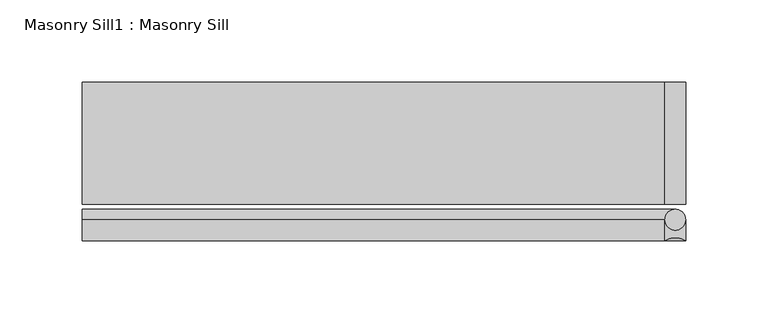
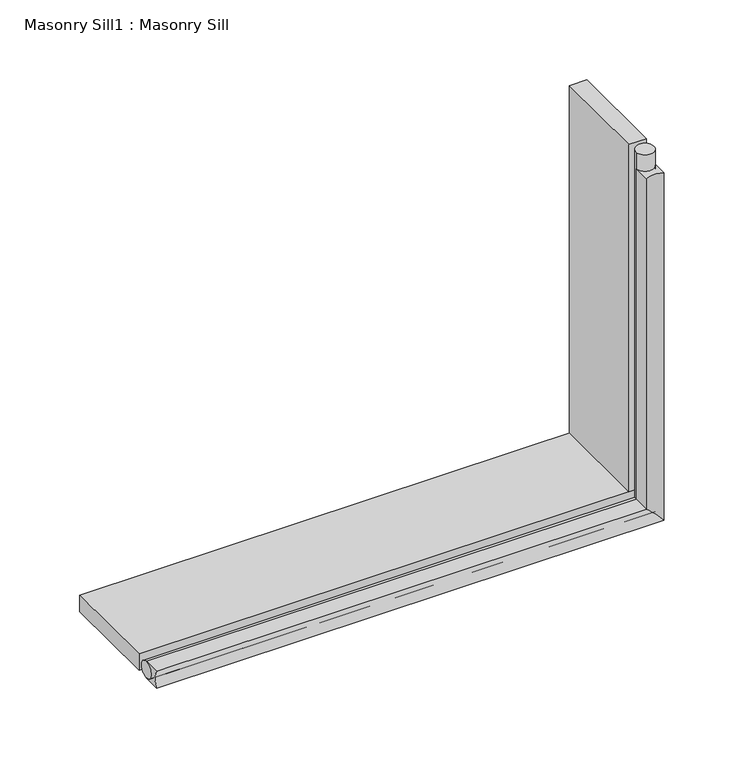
"""IFC4 building model written with IfcOpenShell, lengths in millimetres: proxy geometry, Masonry Sill1 : Masonry Sill."""

import ifcopenshell
import ifcopenshell.guid

model = None  # the IFC model being written
_history = None  # IfcOwnerHistory: only IFC2X3 demands one
_inside = {}  # id of a spatial element -> (the spatial element, [elements in it])
_under = {}  # id of a project, library or spatial element -> (it, [spatial elements below it])
_declared = {}  # id of a project -> (the project, [libraries it declares])
_typed = {}  # id of a type object -> (the type object, [elements of that type])
_made_of = {}  # id of a material, layer set ... -> (it, [elements and type objects made of it])


def new_model(schema):
    """Start an empty IFC model of exactly this schema.

    Asked for "IFC4X3", IfcOpenShell would pick the latest addendum, in which some entities
    have other attributes; the version numbers below select the first issue.
    IFC2X3 requires an IfcOwnerHistory on every rooted entity: one is made here for all.
    """
    global model, _history
    if schema == "IFC4X3":
        model = ifcopenshell.file(schema_version=(4, 3, 0, 0))
    else:
        model = ifcopenshell.file(schema=schema)
    _inside.clear()
    _under.clear()
    _declared.clear()
    _typed.clear()
    _made_of.clear()
    _history = None
    if model.schema == "IFC2X3":
        org = make("IfcOrganization", Name="unknown")
        user = make(
            "IfcPersonAndOrganization",
            ThePerson=make("IfcPerson", FamilyName="unknown"),
            TheOrganization=org,
        )
        app = make(
            "IfcApplication",
            ApplicationDeveloper=org,
            Version="unknown",
            ApplicationFullName="unknown",
            ApplicationIdentifier="unknown",
        )
        _history = make(
            "IfcOwnerHistory",
            OwningUser=user,
            OwningApplication=app,
            ChangeAction="ADDED",
            CreationDate=0,
        )
    return model


def make(cls, **values):
    """One entity of the class cls with the attributes given. An attribute that is None is left unset."""
    return model.create_entity(
        cls, **{name: value for name, value in values.items() if value is not None}
    )


def rooted(cls, **values):
    """An entity with a GlobalId (a new one), such as an element, a storey or a relation."""
    return make(cls, GlobalId=ifcopenshell.guid.new(), OwnerHistory=_history, **values)


def si_unit(unit_type, name, prefix=None):
    """IfcSIUnit, for example si_unit("LENGTHUNIT", "METRE", prefix="MILLI")."""
    return make("IfcSIUnit", UnitType=unit_type, Prefix=prefix, Name=name)


def assignment(units):
    """IfcUnitAssignment: the units of a project."""
    return None if units is None else make("IfcUnitAssignment", Units=units)


def point(xyz):
    """IfcCartesianPoint."""
    return None if xyz is None else make("IfcCartesianPoint", Coordinates=xyz)


def direction(xyz):
    """IfcDirection."""
    return None if xyz is None else make("IfcDirection", DirectionRatios=xyz)


def frame(location, z_axis=None, x_axis=None):
    """IfcAxis2Placement3D, a coordinate frame: its origin and axes. An axis left out is left unset."""
    return make(
        "IfcAxis2Placement3D",
        Location=point(location),
        Axis=direction(z_axis),
        RefDirection=direction(x_axis),
    )


def origin():
    """The frame at (0, 0, 0) with its axes left unset."""
    return frame((0.0, 0.0, 0.0))


def place(relative_to, where):
    """IfcLocalPlacement: puts the frame where relative to a parent placement (None: the world)."""
    return make(
        "IfcLocalPlacement", PlacementRelTo=relative_to, RelativePlacement=where
    )


def context(
    kind, dimensions, precision=None, world=None, true_north=None, identifier=None
):
    """IfcGeometricRepresentationContext, for example the 3D "Model" context."""
    return make(
        "IfcGeometricRepresentationContext",
        ContextIdentifier=identifier,
        ContextType=kind,
        CoordinateSpaceDimension=dimensions,
        Precision=precision,
        WorldCoordinateSystem=world,
        TrueNorth=true_north,
    )


def project(units=None, contexts=None):
    """IfcProject with its units and contexts."""
    return rooted(
        "IfcProject",
        Name="project",
        RepresentationContexts=contexts,
        UnitsInContext=assignment(units),
    )


def spatial(cls, under=None, at=None, **own):
    """A site, building, storey or space (cls), placed at a placement, below another one or the project."""
    s = rooted(cls, ObjectPlacement=at, **own)
    if under is not None:
        _under.setdefault(under.id(), (under, []))[1].append(s)
    return s


def polyline(points):
    """IfcPolyline through the points."""
    return make("IfcPolyline", Points=[point(p) for p in points])


def circle_curve(where, radius):
    """IfcCircle in the frame where."""
    return make("IfcCircle", Position=where, Radius=radius)


def ellipse_curve(where, semi_axis1, semi_axis2):
    """IfcEllipse in the frame where."""
    return make(
        "IfcEllipse", Position=where, SemiAxis1=semi_axis1, SemiAxis2=semi_axis2
    )


def outline(outer, holes=None, kind="AREA"):
    """IfcArbitraryClosedProfileDef: a profile drawn as a closed curve; with holes, ...WithVoids."""
    if holes is None:
        return make("IfcArbitraryClosedProfileDef", ProfileType=kind, OuterCurve=outer)
    return make(
        "IfcArbitraryProfileDefWithVoids",
        ProfileType=kind,
        OuterCurve=outer,
        InnerCurves=holes,
    )


def extrude(swept, where, along, depth):
    """IfcExtrudedAreaSolid: the profile swept, set in the frame where, extruded along a direction by depth."""
    return make(
        "IfcExtrudedAreaSolid",
        SweptArea=swept,
        Position=where,
        ExtrudedDirection=direction(along),
        Depth=depth,
    )


def shape(context_of_items, identifier, shape_type, items):
    """IfcShapeRepresentation: the items that make up one representation, for example the "Body"."""
    return make(
        "IfcShapeRepresentation",
        ContextOfItems=context_of_items,
        RepresentationIdentifier=identifier,
        RepresentationType=shape_type,
        Items=items,
    )


def source(mapping_origin, context_of_items, identifier, shape_type, items):
    """IfcRepresentationMap: a shape defined once, which mapped items show again and again."""
    return make(
        "IfcRepresentationMap",
        MappingOrigin=mapping_origin,
        MappedRepresentation=shape(context_of_items, identifier, shape_type, items),
    )


def transform(
    local_origin,
    x_axis=None,
    y_axis=None,
    z_axis=None,
    scale=None,
    scale2=None,
    scale3=None,
    uniform=True,
):
    """IfcCartesianTransformationOperator3D, or its non-uniform kind. x_axis, y_axis, z_axis: its Axis1, 2, 3."""
    if uniform:
        return make(
            "IfcCartesianTransformationOperator3D",
            Axis1=direction(x_axis),
            Axis2=direction(y_axis),
            LocalOrigin=point(local_origin),
            Scale=scale,
            Axis3=direction(z_axis),
        )
    return make(
        "IfcCartesianTransformationOperator3DnonUniform",
        Axis1=direction(x_axis),
        Axis2=direction(y_axis),
        LocalOrigin=point(local_origin),
        Scale=scale,
        Axis3=direction(z_axis),
        Scale2=scale2,
        Scale3=scale3,
    )


def mapped(mapping_source, mapping_target):
    """IfcMappedItem: shows the shape of a source again, moved by a transform."""
    return make(
        "IfcMappedItem", MappingSource=mapping_source, MappingTarget=mapping_target
    )


def made_of(thing, what):
    """Note that an element or type object is made of a material, layer set ...; save() writes the relation."""
    if what is not None:
        _made_of.setdefault(what.id(), (what, []))[1].append(thing)
    return thing


def element(
    cls,
    number,
    at=None,
    inside=None,
    cuts=None,
    type_object=None,
    material=None,
    context=None,
    identifier="Body",
    shape_type=None,
    held_by="IfcProductDefinitionShape",
    body=None,
    shapes=None,
    **own,
):
    """One element of the class cls, such as IfcWall. Its Tag is "e" and its number.

    at: its placement. inside: the storey or other place that contains it. cuts: it is an
    opening in that element (IfcRelVoidsElement). A single representation is given by context,
    identifier, shape_type and body (its items); several are given by shapes. held_by: the class
    of the entity that holds the representations. save() writes the other relations.
    """
    e = rooted(cls, Tag="e%d" % number, ObjectPlacement=at, **own)
    if body is not None:
        shapes = [shape(context, identifier, shape_type, body)]
    if shapes is not None:
        e.Representation = make(held_by, Representations=shapes)
    if inside is not None:
        _inside.setdefault(inside.id(), (inside, []))[1].append(e)
    if cuts is not None:
        rooted(
            "IfcRelVoidsElement", RelatingBuildingElement=cuts, RelatedOpeningElement=e
        )
    if type_object is not None:
        _typed.setdefault(type_object.id(), (type_object, []))[1].append(e)
    return made_of(e, material)


def aggregate(whole, parts):
    """IfcRelAggregates: a whole, such as a stair, and the parts it consists of."""
    return rooted("IfcRelAggregates", RelatingObject=whole, RelatedObjects=parts)


def save(model, path):
    """Write the relations noted so far, then the file.

    IfcRelAggregates (storeys below a building ...), IfcRelContainedInSpatialStructure (elements
    in a storey), IfcRelDefinesByType, IfcRelAssociatesMaterial and IfcRelDeclares: one each for
    every whole, place, type object, material and project.
    """
    for whole, parts in _under.values():
        aggregate(whole, parts)
    for where, things in _inside.values():
        rooted(
            "IfcRelContainedInSpatialStructure",
            RelatedElements=things,
            RelatingStructure=where,
        )
    for kind, things in _typed.values():
        rooted("IfcRelDefinesByType", RelatedObjects=things, RelatingType=kind)
    for what, things in _made_of.values():
        rooted("IfcRelAssociatesMaterial", RelatedObjects=things, RelatingMaterial=what)
    for by, libraries in _declared.values():
        rooted("IfcRelDeclares", RelatingContext=by, RelatedDefinitions=libraries)
    model.write(path)


def plane_surface(at):
    """IfcPlane: the flat surface through the origin of the frame at, square to its z axis."""
    return make("IfcPlane", Position=at)


def cylinder_surface(at, radius):
    """IfcCylindricalSurface: all points at the distance radius from the z axis of the frame at."""
    return make("IfcCylindricalSurface", Position=at, Radius=radius)


def revolved_surface(curve, axis_point, axis_direction):
    """IfcSurfaceOfRevolution: the curve turned about the line through axis_point along axis_direction."""
    return make(
        "IfcSurfaceOfRevolution",
        SweptCurve=make("IfcArbitraryOpenProfileDef", ProfileType="CURVE", Curve=curve),
        AxisPosition=make("IfcAxis1Placement", Location=point(axis_point), Axis=direction(axis_direction)),
    )


def advanced_brep(points, edges, surfaces, faces):
    """IfcAdvancedBrep: a solid bounded by faces that lie on surfaces and meet in shared edges.

    An edge is (start, end): straight between two places in points (the first is 0);
    or (start, end, curve); or (start, end, curve, False) where it runs against its curve.
    A face is (place in surfaces, loops), or (place, loops, False) where it looks against
    its surface's normal. A loop lists edges by number (the first is 1), with a minus sign
    where the edge is run from its end to its start. The first loop is the outer one.
    """
    corners = [point(p) for p in points]
    vertices = [make("IfcVertexPoint", VertexGeometry=c) for c in corners]
    made = []
    for start, end, *more in edges:
        made.append(
            make(
                "IfcEdgeCurve",
                EdgeStart=vertices[start],
                EdgeEnd=vertices[end],
                EdgeGeometry=more[0] if more else make("IfcPolyline", Points=[corners[start], corners[end]]),
                SameSense=more[1] if len(more) > 1 else True,
            )
        )
    hull = []
    for where, loops, *sense in faces:
        bounds = []
        for j, loop in enumerate(loops):
            ring = [make("IfcOrientedEdge", EdgeElement=made[abs(k) - 1], Orientation=k > 0) for k in loop]
            bounds.append(
                make(
                    "IfcFaceOuterBound" if j == 0 else "IfcFaceBound",
                    Bound=make("IfcEdgeLoop", EdgeList=ring),
                    Orientation=True,
                )
            )
        hull.append(make("IfcAdvancedFace", Bounds=bounds, FaceSurface=surfaces[where], SameSense=sense[0] if sense else True))
    return make("IfcAdvancedBrep", Outer=make("IfcClosedShell", CfsFaces=hull))


def masonry_sill1_masonry_sill_349c8951(model_context):
    return source(origin(), model_context, "Body", "SolidModel", [
        advanced_brep(
        [(26489.1726773, 633.9816297, 458.7875), (26489.1726773, 633.9816297, 471.4875), (26489.1726773, 646.6816297, 471.4875), (26489.1726773, 646.6816297, 458.7875), (26855.8851773, 633.9816297, 723.9), (26855.8851773, 646.6816297, 723.9), (26843.1851773, 646.6816297, 723.9), (26843.1851773, 633.9816297, 723.9), (26855.8851773, 646.6816297, 458.7875), (26855.8851773, 633.9816297, 458.7875), (26843.1851773, 646.6816297, 471.4875), (26843.1851773, 633.9816297, 471.4875)],
        [
            (0, 1, circle_curve(frame((26489.1726773, 622.983107, 465.1375), z_axis=(1.0, 0.0, 0.0), x_axis=(0.0, 0.0, 1.0)), 12.7)),
            (1, 2),
            (2, 3, circle_curve(frame((26489.1726773, 646.6816297, 465.1375), z_axis=(1.0, 0.0, 0.0), x_axis=(0.0, 0.0, 1.0)), 6.35)),
            (3, 0),
            (4, 5),
            (5, 6, circle_curve(frame((26849.5351773, 646.6816297, 723.9), z_axis=(0.0, 0.0, -1.0), x_axis=(-1.0, 0.0, 0.0)), 6.35)),
            (6, 7),
            (7, 4, circle_curve(frame((26849.5351773, 622.983107, 723.9), z_axis=(0.0, 0.0, -1.0), x_axis=(-1.0, 0.0, 0.0)), 12.7)),
            (3, 8),
            (8, 9),
            (9, 0),
            (2, 10),
            (10, 8, ellipse_curve(frame((26849.5351773, 646.6816297, 465.1375), z_axis=(0.7071067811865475, 0.0, 0.7071067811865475), x_axis=(0.7071067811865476, 0.0, -0.7071067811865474)), 8.9802561, 6.35)),
            (1, 11),
            (11, 10),
            (9, 11, ellipse_curve(frame((26849.5351773, 622.983107, 465.1375), z_axis=(0.7071067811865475, 0.0, 0.7071067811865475), x_axis=(0.7071067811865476, 0.0, -0.7071067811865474)), 17.9605122, 12.7)),
            (8, 5),
            (4, 9),
            (10, 6),
            (11, 7),
        ],
        [
            plane_surface(frame((26489.1726773, 656.2066297, 471.4875), z_axis=(-1.0, 0.0, 0.0), x_axis=(0.0, -1.0, 0.0))),
            plane_surface(frame((26843.1851773, 656.2066297, 723.9), z_axis=(0.0, 0.0, 1.0), x_axis=(0.0, -1.0, 0.0))),
            plane_surface(frame((26489.1726773, 646.6816297, 458.7875), z_axis=(0.0, 0.0, -1.0), x_axis=(1.0, 0.0, 0.0))),
            revolved_surface(polyline([(26855.8851773, 646.6816297, 471.4875), (26489.1726773, 646.6816297, 471.4875)]), (26489.1726773, 646.6816297, 465.1375), (1.0, 0.0, 0.0)),
            plane_surface(frame((26489.1726773, 633.9816297, 471.4875), z_axis=(0.0, 0.0, 1.0), x_axis=(1.0, 0.0, 0.0))),
            revolved_surface(polyline([(26862.235177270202, 622.983107, 477.8375), (26489.1726773, 622.983107, 477.8375)]), (26489.1726773, 622.983107, 465.1375), (1.0, 0.0, 0.0)),
            plane_surface(frame((26855.8851773, 646.6816297, 458.7875), z_axis=(1.0, 0.0, 0.0), x_axis=(0.0, 0.0, 1.0))),
            revolved_surface(polyline([(26843.1851773, 646.6816297, 723.9), (26843.1851773, 646.6816297, 458.7875)]), (26849.5351773, 646.6816297, 471.4875), (0.0, 0.0, 1.0)),
            plane_surface(frame((26843.1851773, 633.9816297, 471.4875), z_axis=(-1.0, 0.0, 0.0), x_axis=(0.0, 0.0, 1.0))),
            revolved_surface(polyline([(26836.8351773, 622.983107, 723.9), (26836.8351773, 622.983107, 452.4375000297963)]), (26849.5351773, 622.983107, 471.4875), (0.0, 0.0, 1.0)),
        ],
        [
            (0, [[1, 2, 3, 4]]),
            (1, [[5, 6, 7, 8]]),
            (2, [[-4, 9, 10, 11]]),
            (3, [[-3, 12, 13, -9]]),
            (4, [[-2, 14, 15, -12]]),
            (5, [[-1, -11, 16, -14]]),
            (6, [[-10, 17, -5, 18]]),
            (7, [[-13, 19, -6, -17]]),
            (8, [[-15, 20, -7, -19]]),
            (9, [[-16, -18, -8, -20]]),
        ],
    ),
        advanced_brep(
        [(26489.1726773, 646.6816297, 458.7875), (26489.1726773, 646.6816297, 471.4875), (26843.1851773, 646.6816297, 471.4875), (26855.8851773, 646.6816297, 458.7875), (26855.8851773, 646.6816297, 736.6), (26843.1851773, 646.6816297, 736.6)],
        [
            (0, 1, circle_curve(frame((26489.1726773, 646.6816297, 465.1375), z_axis=(-1.0, 0.0, 0.0), x_axis=(0.0, 0.0, 1.0)), 6.35)),
            (1, 0, circle_curve(frame((26489.1726773, 646.6816297, 465.1375), z_axis=(-1.0, 0.0, 0.0), x_axis=(0.0, 0.0, 1.0)), 6.35)),
            (1, 2),
            (2, 3, ellipse_curve(frame((26849.5351773, 646.6816297, 465.1375), z_axis=(-0.7071067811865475, 0.0, -0.7071067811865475), x_axis=(-0.7071067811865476, 0.0, 0.7071067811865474)), 8.9802561, 6.35)),
            (3, 0),
            (3, 2, ellipse_curve(frame((26849.5351773, 646.6816297, 465.1375), z_axis=(-0.7071067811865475, 0.0, -0.7071067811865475), x_axis=(-0.7071067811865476, 0.0, 0.7071067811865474)), 8.9802561, 6.35)),
            (4, 5, circle_curve(frame((26849.5351773, 646.6816297, 736.6), z_axis=(0.0, 0.0, 1.0), x_axis=(-1.0, 0.0, 0.0)), 6.35)),
            (5, 4, circle_curve(frame((26849.5351773, 646.6816297, 736.6), z_axis=(0.0, 0.0, 1.0), x_axis=(-1.0, 0.0, 0.0)), 6.35)),
            (2, 5),
            (4, 3),
        ],
        [
            plane_surface(frame((26489.1726773, 656.2066297, 471.4875), z_axis=(-1.0, 0.0, 0.0), x_axis=(0.0, -1.0, 0.0))),
            cylinder_surface(frame((26489.1726773, 646.6816297, 465.1375), z_axis=(-1.0, 0.0, 0.0), x_axis=(0.0, 0.0, 1.0)), 6.35),
            plane_surface(frame((26843.1851773, 656.2066297, 736.6), z_axis=(0.0, 0.0, 1.0), x_axis=(0.0, -1.0, 0.0))),
            cylinder_surface(frame((26849.5351773, 646.6816297, 471.4875), z_axis=(0.0, 0.0, -1.0), x_axis=(-1.0, 0.0, 0.0)), 6.35),
        ],
        [
            (0, [[1, 2]]),
            (1, [[-2, 3, 4, 5]]),
            (1, [[-1, -5, 6, -3]]),
            (2, [[7, 8]]),
            (3, [[-4, 9, -7, 10]]),
            (3, [[-6, -10, -8, -9]]),
        ],
    ),
        extrude(outline(polyline([(26855.8851773, 656.2066297), (26843.1851773, 656.2066297), (26843.1851773, 730.1774531), (26855.8851773, 730.1774531), (26855.8851773, 656.2066297)])), frame((0.0, 0.0, 471.4875), z_axis=(0.0, 0.0, 1.0), x_axis=(1.0, 0.0, 0.0)), (0.0, 0.0, 1.0), 265.1125),
        extrude(outline(polyline([(26489.1726773, 656.2066297), (26489.1726773, 730.1774531), (26855.8851773, 730.1774531), (26855.8851773, 656.2066297), (26489.1726773, 656.2066297)])), frame((0.0, 0.0, 458.7875), z_axis=(0.0, 0.0, 1.0), x_axis=(1.0, 0.0, 0.0)), (0.0, 0.0, 1.0), 12.7),
    ])


if __name__ == "__main__":
    model = new_model("IFC4")
    model_context = context("Model", 3, world=origin())
    ifc_project = project(units=[si_unit("LENGTHUNIT", "METRE", prefix="MILLI")], contexts=[model_context])
    site = spatial("IfcSite", under=ifc_project)
    building = spatial("IfcBuilding", under=site)
    placement = place(None, origin())
    masonry_sill1_masonry_sill_shape = masonry_sill1_masonry_sill_349c8951(model_context)
    element("IfcBuildingElementProxy", 1, Name="Masonry Sill1 : Masonry Sill", ObjectType="Masonry Sill1 : Masonry Sill", at=placement, inside=building, context=model_context, shape_type="MappedRepresentation", body=[
        mapped(masonry_sill1_masonry_sill_shape, transform((0.0, 0.0, 0.0), x_axis=(1.0, 0.0, 0.0), y_axis=(0.0, 1.0, 0.0), z_axis=(0.0, 0.0, 1.0))),
    ])
    save(model, "model.ifc")
